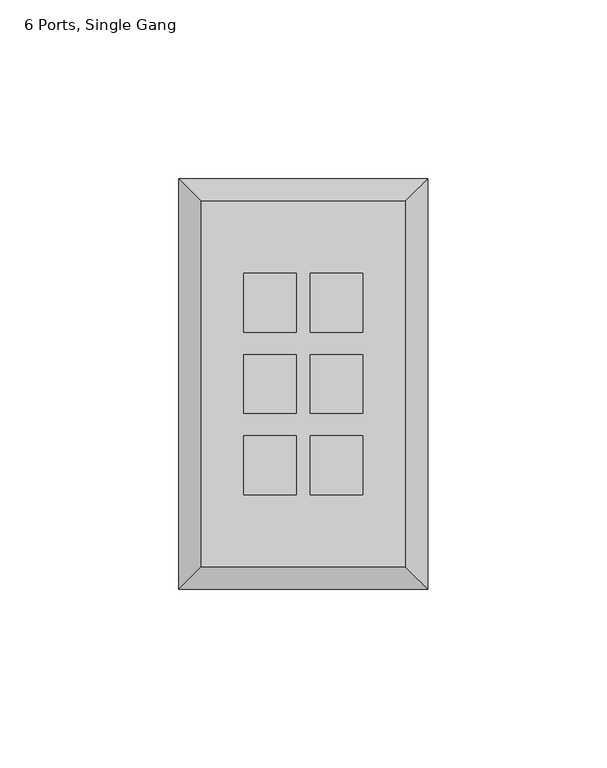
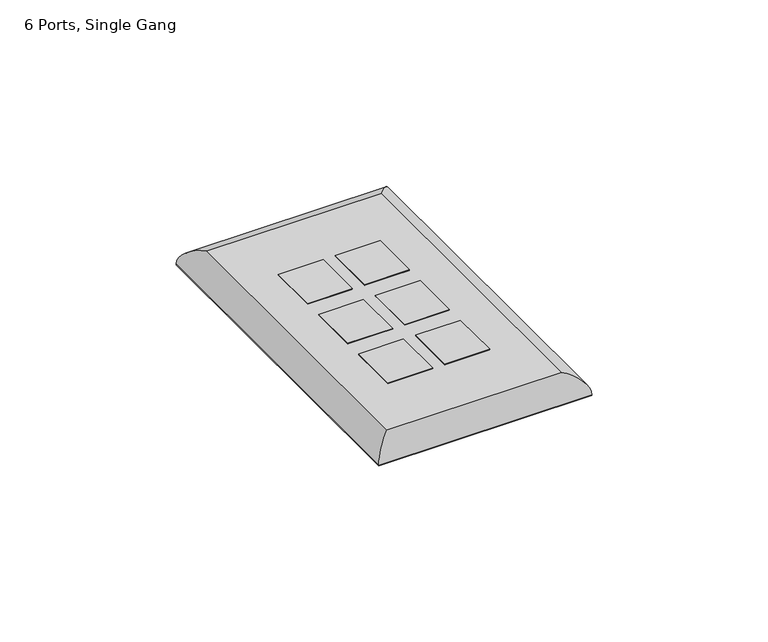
"""IFC4 building model written with IfcOpenShell, lengths in millimetres: electric appliance geometry, Data_Device-Work_Area-Leviton-QuickPort-Wallplate : 6 Ports, Single Gang."""

from ifc_helpers import new_model, si_unit, frame, origin, origin_with_axes, place, context, project, spatial, polyline, ellipse_curve, outline, extrude, source, transform, mapped, element, save
from ifc_brep_helpers import plane_surface, cylinder_surface, advanced_brep


def electric_appliance_6_ports_single_gang_104f800b(model_context):
    return source(origin(), model_context, "Body", "SolidModel", [
        extrude(outline(polyline([(-24.9936, 16.4465), (-24.9936, -0.0635), (-39.7256, -0.0635), (-39.7256, 16.4465), (-24.9936, 16.4465)])), origin_with_axes(), (0.0, 0.0, 1.0), 6.35),
        extrude(outline(polyline([(-24.9936, 39.1795), (-24.9936, 22.6695), (-39.7256, 22.6695), (-39.7256, 39.1795), (-24.9936, 39.1795)])), origin_with_axes(), (0.0, 0.0, 1.0), 6.35),
        extrude(outline(polyline([(-24.9936, -6.2865), (-24.9936, -22.7965), (-39.7256, -22.7965), (-39.7256, -6.2865), (-24.9936, -6.2865)])), origin_with_axes(), (0.0, 0.0, 1.0), 6.35),
        extrude(outline(polyline([(-6.3246, 16.4465), (-6.3246, -0.0635), (-21.0566, -0.0635), (-21.0566, 16.4465), (-6.3246, 16.4465)])), origin_with_axes(), (0.0, 0.0, 1.0), 6.35),
        extrude(outline(polyline([(-6.3246, 39.1795), (-6.3246, 22.6695), (-21.0566, 22.6695), (-21.0566, 39.1795), (-6.3246, 39.1795)])), origin_with_axes(), (0.0, 0.0, 1.0), 6.35),
        extrude(outline(polyline([(-6.3246, -6.2865), (-6.3246, -22.7965), (-21.0566, -22.7965), (-21.0566, -6.2865), (-6.3246, -6.2865)])), origin_with_axes(), (0.0, 0.0, 1.0), 6.35),
        advanced_brep(
        [(5.5499, -42.9895, 6.35), (5.5499, 59.3725, 6.35), (-51.6001, 59.3725, 6.35), (-51.6001, -42.9895, 6.35), (-39.7256, 39.1795, 6.35), (-24.9936, 39.1795, 6.35), (-24.9936, 22.6695, 6.35), (-39.7256, 22.6695, 6.35), (-39.7256, 16.4465, 6.35), (-24.9936, 16.4465, 6.35), (-24.9936, -0.0635, 6.35), (-39.7256, -0.0635, 6.35), (-39.7256, -6.2865, 6.35), (-24.9936, -6.2865, 6.35), (-24.9936, -22.7965, 6.35), (-39.7256, -22.7965, 6.35), (-21.0566, 39.1795, 6.35), (-6.3246, 39.1795, 6.35), (-6.3246, 22.6695, 6.35), (-21.0566, 22.6695, 6.35), (-21.0566, 16.4465, 6.35), (-6.3246, 16.4465, 6.35), (-6.3246, -0.0635, 6.35), (-21.0566, -0.0635, 6.35), (-21.0566, -6.2865, 6.35), (-6.3246, -6.2865, 6.35), (-6.3246, -22.7965, 6.35), (-21.0566, -22.7965, 6.35), (11.8999, 65.7225, 0.0), (11.8999, -49.3395, 0.0), (-57.9501, -49.3395, 0.0), (-57.9501, 65.7225, 0.0), (-24.9936, 39.1795, 0.0), (-39.7256, 39.1795, 0.0), (-39.7256, 22.6695, 0.0), (-24.9936, 22.6695, 0.0), (-24.9936, 16.4465, 0.0), (-39.7256, 16.4465, 0.0), (-39.7256, -0.0635, 0.0), (-24.9936, -0.0635, 0.0), (-24.9936, -6.2865, 0.0), (-39.7256, -6.2865, 0.0), (-39.7256, -22.7965, 0.0), (-24.9936, -22.7965, 0.0), (-6.3246, 39.1795, 0.0), (-21.0566, 39.1795, 0.0), (-21.0566, 22.6695, 0.0), (-6.3246, 22.6695, 0.0), (-6.3246, 16.4465, 0.0), (-21.0566, 16.4465, 0.0), (-21.0566, -0.0635, 0.0), (-6.3246, -0.0635, 0.0), (-6.3246, -6.2865, 0.0), (-21.0566, -6.2865, 0.0), (-21.0566, -22.7965, 0.0), (-6.3246, -22.7965, 0.0), (-57.9501, 65.7225, 0.254), (11.8999, 65.7225, 0.254), (-57.9501, -49.3395, 0.254), (11.8999, -49.3395, 0.254)],
        [
            (0, 1),
            (1, 2),
            (2, 3),
            (3, 0),
            (4, 5),
            (5, 6),
            (6, 7),
            (7, 4),
            (8, 9),
            (9, 10),
            (10, 11),
            (11, 8),
            (12, 13),
            (13, 14),
            (14, 15),
            (15, 12),
            (16, 17),
            (17, 18),
            (18, 19),
            (19, 16),
            (20, 21),
            (21, 22),
            (22, 23),
            (23, 20),
            (24, 25),
            (25, 26),
            (26, 27),
            (27, 24),
            (28, 29),
            (29, 30),
            (30, 31),
            (31, 28),
            (32, 33),
            (33, 34),
            (34, 35),
            (35, 32),
            (36, 37),
            (37, 38),
            (38, 39),
            (39, 36),
            (40, 41),
            (41, 42),
            (42, 43),
            (43, 40),
            (44, 45),
            (45, 46),
            (46, 47),
            (47, 44),
            (48, 49),
            (49, 50),
            (50, 51),
            (51, 48),
            (52, 53),
            (53, 54),
            (54, 55),
            (55, 52),
            (31, 56),
            (56, 57),
            (57, 28),
            (30, 58),
            (58, 56),
            (29, 59),
            (59, 58),
            (57, 59),
            (4, 33),
            (32, 5),
            (7, 34),
            (6, 35),
            (8, 37),
            (36, 9),
            (11, 38),
            (10, 39),
            (12, 41),
            (40, 13),
            (15, 42),
            (14, 43),
            (16, 45),
            (44, 17),
            (19, 46),
            (18, 47),
            (20, 49),
            (48, 21),
            (23, 50),
            (22, 51),
            (24, 53),
            (52, 25),
            (27, 54),
            (26, 55),
            (0, 59, ellipse_curve(frame((5.5499, -42.9895, -0.0052917), z_axis=(0.7071067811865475, 0.7071067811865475, 0.0), x_axis=(0.7071067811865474, -0.7071067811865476, 0.0)), 8.9877397, 6.3552917)),
            (57, 1, ellipse_curve(frame((5.5499, 59.3725, -0.0052917), z_axis=(0.7071067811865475, -0.7071067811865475, 0.0), x_axis=(-0.7071067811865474, -0.7071067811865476, 0.0)), 8.9877397, 6.3552917)),
            (3, 58, ellipse_curve(frame((-51.6001, -42.9895, -0.0052917), z_axis=(0.7071067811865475, -0.7071067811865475, 0.0), x_axis=(-0.7071067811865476, -0.7071067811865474, 0.0)), 8.9877397, 6.3552917)),
            (2, 56, ellipse_curve(frame((-51.6001, 59.3725, -0.0052917), z_axis=(-0.7071067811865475, -0.7071067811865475, 0.0), x_axis=(-0.7071067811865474, 0.7071067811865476, 0.0)), 8.9877397, 6.3552917)),
        ],
        [
            plane_surface(frame((-57.9501, 65.7225, 6.35), z_axis=(0.0, 0.0, 1.0), x_axis=(-1.0, 0.0, 0.0))),
            plane_surface(frame((-57.9501, 65.7225, 0.0), z_axis=(0.0, 0.0, -1.0), x_axis=(1.0, 0.0, 0.0))),
            plane_surface(frame((11.8999, 65.7225, 6.35), z_axis=(0.0, 1.0, 0.0), x_axis=(0.0, 0.0, -1.0))),
            plane_surface(frame((-57.9501, 65.7225, 6.35), z_axis=(-1.0, 0.0, 0.0), x_axis=(0.0, 0.0, -1.0))),
            plane_surface(frame((-57.9501, -49.3395, 6.35), z_axis=(0.0, -1.0, 0.0), x_axis=(0.0, 0.0, -1.0))),
            plane_surface(frame((11.8999, -49.3395, 6.35), z_axis=(1.0, 0.0, 0.0), x_axis=(0.0, 0.0, -1.0))),
            plane_surface(frame((-24.9936, 39.1795, 6.35), z_axis=(0.0, -1.0, 0.0), x_axis=(0.0, 0.0, -1.0))),
            plane_surface(frame((-39.7256, 39.1795, 6.35), z_axis=(1.0, 0.0, 0.0), x_axis=(0.0, 0.0, -1.0))),
            plane_surface(frame((-39.7256, 22.6695, 6.35), z_axis=(0.0, 1.0, 0.0), x_axis=(0.0, 0.0, -1.0))),
            plane_surface(frame((-24.9936, 22.6695, 6.35), z_axis=(-1.0, 0.0, 0.0), x_axis=(0.0, 0.0, -1.0))),
            plane_surface(frame((-24.9936, 16.4465, 6.35), z_axis=(0.0, -1.0, 0.0), x_axis=(0.0, 0.0, -1.0))),
            plane_surface(frame((-39.7256, 16.4465, 6.35), z_axis=(1.0, 0.0, 0.0), x_axis=(0.0, 0.0, -1.0))),
            plane_surface(frame((-39.7256, -0.0635, 6.35), z_axis=(0.0, 1.0, 0.0), x_axis=(0.0, 0.0, -1.0))),
            plane_surface(frame((-24.9936, -0.0635, 6.35), z_axis=(-1.0, 0.0, 0.0), x_axis=(0.0, 0.0, -1.0))),
            plane_surface(frame((-24.9936, -6.2865, 6.35), z_axis=(0.0, -1.0, 0.0), x_axis=(0.0, 0.0, -1.0))),
            plane_surface(frame((-39.7256, -6.2865, 6.35), z_axis=(1.0, 0.0, 0.0), x_axis=(0.0, 0.0, -1.0))),
            plane_surface(frame((-39.7256, -22.7965, 6.35), z_axis=(0.0, 1.0, 0.0), x_axis=(0.0, 0.0, -1.0))),
            plane_surface(frame((-24.9936, -22.7965, 6.35), z_axis=(-1.0, 0.0, 0.0), x_axis=(0.0, 0.0, -1.0))),
            plane_surface(frame((-6.3246, 39.1795, 6.35), z_axis=(0.0, -1.0, 0.0), x_axis=(0.0, 0.0, -1.0))),
            plane_surface(frame((-21.0566, 39.1795, 6.35), z_axis=(1.0, 0.0, 0.0), x_axis=(0.0, 0.0, -1.0))),
            plane_surface(frame((-21.0566, 22.6695, 6.35), z_axis=(0.0, 1.0, 0.0), x_axis=(0.0, 0.0, -1.0))),
            plane_surface(frame((-6.3246, 22.6695, 6.35), z_axis=(-1.0, 0.0, 0.0), x_axis=(0.0, 0.0, -1.0))),
            plane_surface(frame((-6.3246, 16.4465, 6.35), z_axis=(0.0, -1.0, 0.0), x_axis=(0.0, 0.0, -1.0))),
            plane_surface(frame((-21.0566, 16.4465, 6.35), z_axis=(1.0, 0.0, 0.0), x_axis=(0.0, 0.0, -1.0))),
            plane_surface(frame((-21.0566, -0.0635, 6.35), z_axis=(0.0, 1.0, 0.0), x_axis=(0.0, 0.0, -1.0))),
            plane_surface(frame((-6.3246, -0.0635, 6.35), z_axis=(-1.0, 0.0, 0.0), x_axis=(0.0, 0.0, -1.0))),
            plane_surface(frame((-6.3246, -6.2865, 6.35), z_axis=(0.0, -1.0, 0.0), x_axis=(0.0, 0.0, -1.0))),
            plane_surface(frame((-21.0566, -6.2865, 6.35), z_axis=(1.0, 0.0, 0.0), x_axis=(0.0, 0.0, -1.0))),
            plane_surface(frame((-21.0566, -22.7965, 6.35), z_axis=(0.0, 1.0, 0.0), x_axis=(0.0, 0.0, -1.0))),
            plane_surface(frame((-6.3246, -22.7965, 6.35), z_axis=(-1.0, 0.0, 0.0), x_axis=(0.0, 0.0, -1.0))),
            cylinder_surface(frame((5.5499, 65.7225, -0.0052917), z_axis=(0.0, -1.0, 0.0), x_axis=(1.0, 0.0, 0.0)), 6.3552917),
            cylinder_surface(frame((11.8999, -42.9895, -0.0052917), z_axis=(-1.0, 0.0, 0.0), x_axis=(0.0, -1.0, 0.0)), 6.3552917),
            cylinder_surface(frame((-51.6001, -49.3395, -0.0052917), z_axis=(0.0, 1.0, 0.0), x_axis=(-1.0, 0.0, 0.0)), 6.3552917),
            cylinder_surface(frame((-57.9501, 59.3725, -0.0052917), z_axis=(1.0, 0.0, 0.0), x_axis=(0.0, 1.0, 0.0)), 6.3552917),
        ],
        [
            (0, [[1, 2, 3, 4], [5, 6, 7, 8], [9, 10, 11, 12], [13, 14, 15, 16], [17, 18, 19, 20], [21, 22, 23, 24], [25, 26, 27, 28]]),
            (1, [[29, 30, 31, 32], [33, 34, 35, 36], [37, 38, 39, 40], [41, 42, 43, 44], [45, 46, 47, 48], [49, 50, 51, 52], [53, 54, 55, 56]]),
            (2, [[-32, 57, 58, 59]]),
            (3, [[-31, 60, 61, -57]]),
            (4, [[-30, 62, 63, -60]]),
            (5, [[-29, -59, 64, -62]]),
            (6, [[65, -33, 66, -5]]),
            (7, [[-65, -8, 67, -34]]),
            (8, [[-67, -7, 68, -35]]),
            (9, [[-66, -36, -68, -6]]),
            (10, [[69, -37, 70, -9]]),
            (11, [[-69, -12, 71, -38]]),
            (12, [[-71, -11, 72, -39]]),
            (13, [[-70, -40, -72, -10]]),
            (14, [[73, -41, 74, -13]]),
            (15, [[-73, -16, 75, -42]]),
            (16, [[-75, -15, 76, -43]]),
            (17, [[-74, -44, -76, -14]]),
            (18, [[77, -45, 78, -17]]),
            (19, [[-77, -20, 79, -46]]),
            (20, [[-79, -19, 80, -47]]),
            (21, [[-78, -48, -80, -18]]),
            (22, [[81, -49, 82, -21]]),
            (23, [[-81, -24, 83, -50]]),
            (24, [[-83, -23, 84, -51]]),
            (25, [[-82, -52, -84, -22]]),
            (26, [[85, -53, 86, -25]]),
            (27, [[-85, -28, 87, -54]]),
            (28, [[-87, -27, 88, -55]]),
            (29, [[-86, -56, -88, -26]]),
            (30, [[89, -64, 90, -1]]),
            (31, [[-89, -4, 91, -63]]),
            (32, [[-91, -3, 92, -61]]),
            (33, [[-90, -58, -92, -2]]),
        ],
    ),
        extrude(outline(polyline([(11.6459, 65.4685), (11.6459, -49.0855), (-57.6961, -49.0855), (-57.6961, 65.4685), (11.6459, 65.4685)]), holes=[polyline([(-24.9936, 39.1795), (-39.7256, 39.1795), (-39.7256, 22.6695), (-24.9936, 22.6695), (-24.9936, 39.1795)]), polyline([(-24.9936, 16.4465), (-39.7256, 16.4465), (-39.7256, -0.0635), (-24.9936, -0.0635), (-24.9936, 16.4465)]), polyline([(-24.9936, -6.2865), (-39.7256, -6.2865), (-39.7256, -22.7965), (-24.9936, -22.7965), (-24.9936, -6.2865)]), polyline([(-6.3246, 39.1795), (-21.0566, 39.1795), (-21.0566, 22.6695), (-6.3246, 22.6695), (-6.3246, 39.1795)]), polyline([(-6.3246, 16.4465), (-21.0566, 16.4465), (-21.0566, -0.0635), (-6.3246, -0.0635), (-6.3246, 16.4465)]), polyline([(-6.3246, -6.2865), (-21.0566, -6.2865), (-21.0566, -22.7965), (-6.3246, -22.7965), (-6.3246, -6.2865)])]), origin_with_axes(), (0.0, 0.0, 1.0), 0.254),
    ])


if __name__ == "__main__":
    model = new_model("IFC4")
    model_context = context("Model", 3, world=origin())
    ifc_project = project(units=[si_unit("LENGTHUNIT", "METRE", prefix="MILLI")], contexts=[model_context])
    site = spatial("IfcSite", under=ifc_project)
    building = spatial("IfcBuilding", under=site)
    placement = place(None, origin())
    electric_appliance_6_ports_single_gang_shape = electric_appliance_6_ports_single_gang_104f800b(model_context)
    element("IfcElectricAppliance", 1, ObjectType="Data_Device-Work_Area-Leviton-QuickPort-Wallplate : 6 Ports, Single Gang", at=placement, inside=building, context=model_context, shape_type="MappedRepresentation", body=[
        mapped(electric_appliance_6_ports_single_gang_shape, transform((0.0, 0.0, 0.0), x_axis=(1.0, 0.0, 0.0), y_axis=(0.0, 1.0, 0.0), z_axis=(0.0, 0.0, 1.0))),
    ])
    save(model, "model.ifc")
